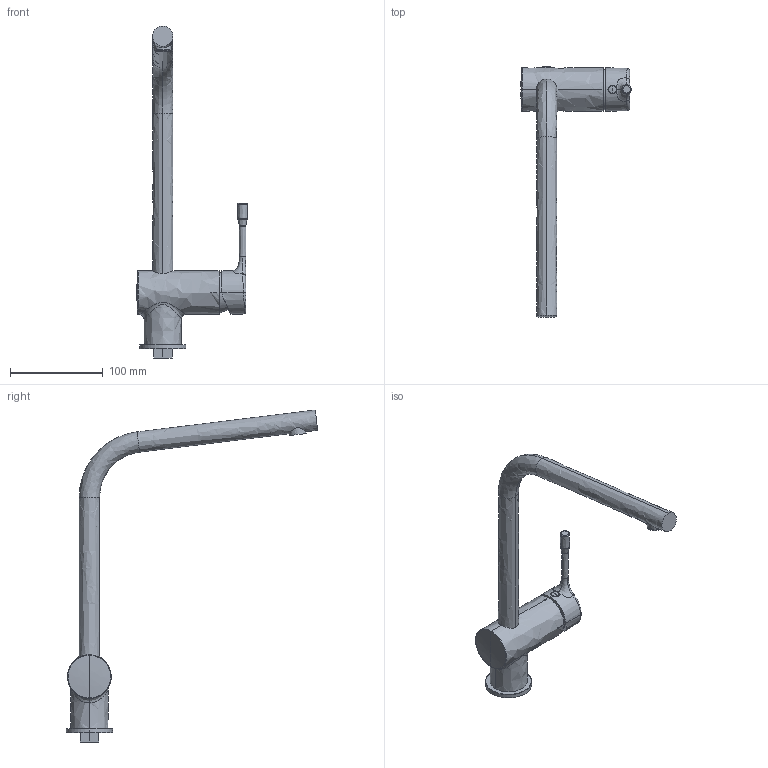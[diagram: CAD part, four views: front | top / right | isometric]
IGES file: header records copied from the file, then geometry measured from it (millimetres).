
Start section: JAMA-IS VERSION  1.0  PTC IGES file: bc174aa_3dpl.igs
Global section: file name: bc174aa_3dpl.igs; native system: Creo Parametric by PTC Inc.; preprocessor: 2016130; author: HristovG; organization: Unknown; date: 20200706.151332; units: millimetre
Bounding box: 118.99 x 271.33 x 358.04 mm (x, y, z)
Volume: 430388.4 mm3; surface area: 68163.4 mm2
Topology: 1 solids, 4 shells, 245 faces, 636 edges, 446 vertices
Faces by surface type: bspline 245
